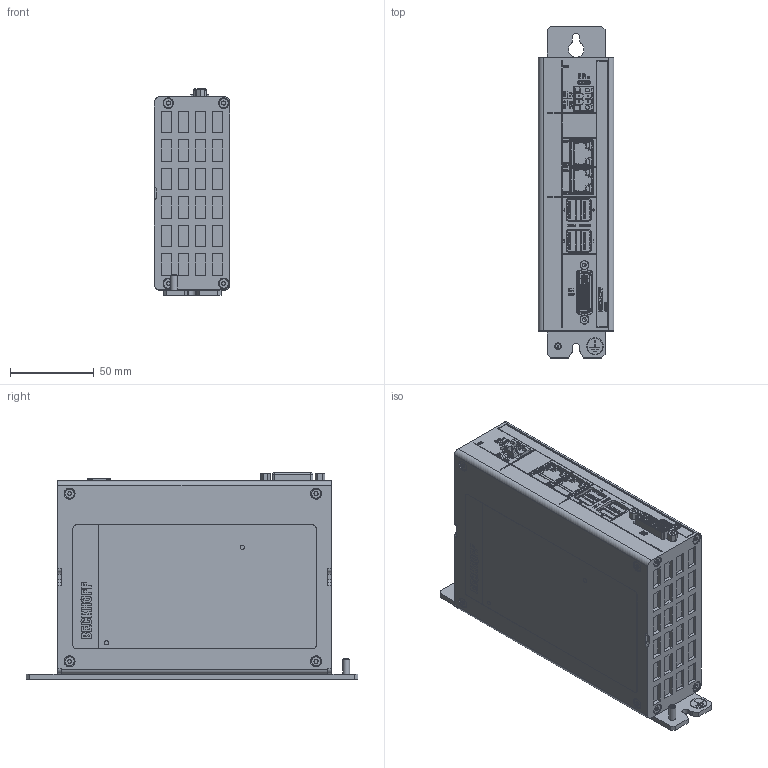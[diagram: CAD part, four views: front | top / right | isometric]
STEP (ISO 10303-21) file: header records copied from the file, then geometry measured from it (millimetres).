
FILE_DESCRIPTION(/* description */ (''),/* implementation_level */ '2;1');
FILE_NAME(/* name */ 'C:\_Vault-Workspace\CAD-Daten\Projekte\Projekte_serie\C\C69\C6905\Daten\C6905.stp',/* time_stamp */ '2016-04-18T11:07:09+02:00',/* author */ ('ChristianK'),/* organization */ (''),/* preprocessor_version */ 'ST-DEVELOPER v16.1',/* originating_system */ 'Autodesk Inventor 2016',/* authorisation */ '');
FILE_SCHEMA (('AUTOMOTIVE_DESIGN { 1 0 10303 214 3 1 1 }'));
Products named in the file (1): C6905_Stepdaten_2RJ45
Bounding box: 45.11 x 198 x 122.99 mm (x, y, z)
Volume: 854564.2 mm3; surface area: 80390.5 mm2
Topology: 1 solids, 20 shells, 5685 faces, 15722 edges, 10244 vertices
Faces by surface type: plane 3926, cylinder 1212, bspline 427, cone 70, torus 39, sphere 11
Full cylindrical faces by diameter (mm): 1.95 x3, 2.156 x2, 2.3 x2, 2.459 x2, 2.693 x4, 2.8 x2, 3.5 x4, 3.6 x8, 4 x2, 5.5 x8, 9.4 x1, 10 x1
Entity records: 191419 total; most frequent: CARTESIAN_POINT 42269, ORIENTED_EDGE 31104, DIRECTION 27572, EDGE_CURVE 15552, LINE 11928, VECTOR 11928, VERTEX_POINT 10179, AXIS2_PLACEMENT_3D 7822
